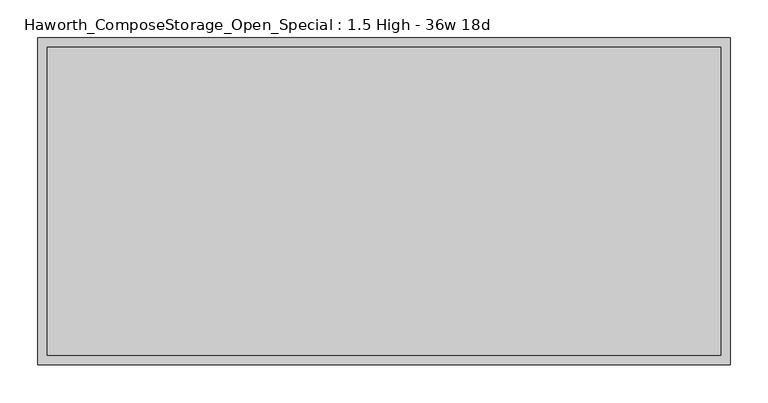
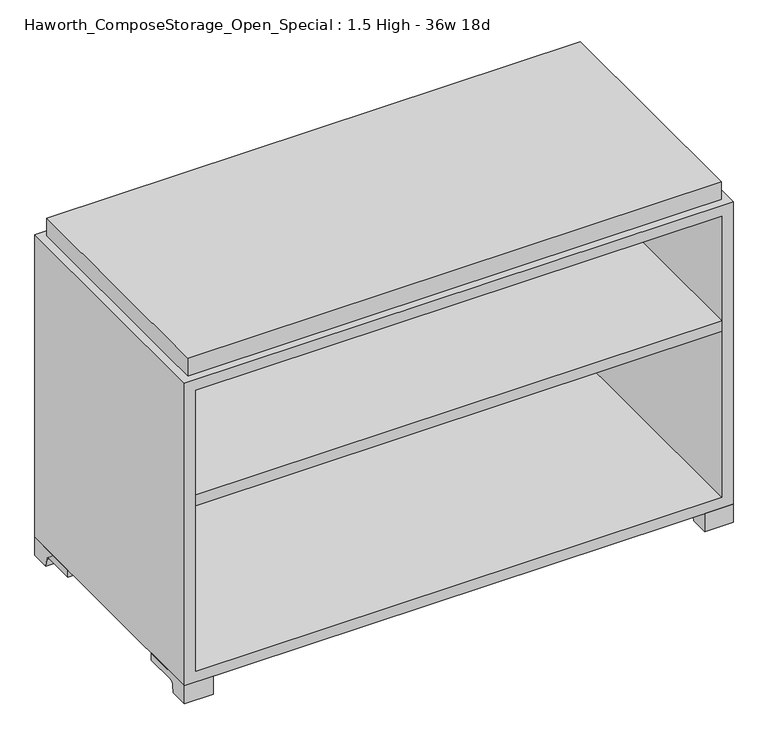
"""IFC4 building model written with IfcOpenShell, lengths in millimetres: furniture geometry, Haworth_ComposeStorage_Open_Special : 1.5 High - 36w 18d."""

from ifc_helpers import new_model, si_unit, point, frame, frame_2d, origin, place, context, project, spatial, polyline, circle_curve, trimmed, segment, composite_curve, outline, extrude, source, transform, mapped, element, save


def haworth_composestorage_open_special_1_5_high_36w_18d_d6f6f0fc(model_context):
    return source(origin(), model_context, "Body", "SweptSolid", [
        extrude(outline(composite_curve([segment(polyline([(-120.65, 0.0), (-152.4, 0.0), (-152.4, 31.75), (-57.15, 31.75), (-57.15, 19.05), (-112.1833333, 19.05)]), True, "CONTINUOUS"), segment(trimmed(circle_curve(frame_2d((-112.1833333, 12.7)), 6.35), [point((-112.1833333, 19.05))], [point((-118.5333333, 12.7))], True, "CARTESIAN"), True, "CONTINUOUS"), segment(polyline([(-118.5333333, 12.7), (-120.65, 0.0)]), True, "CONTINUOUS")], self_intersect=False)), frame((409.5888906, 0.0, 0.0), z_axis=(1.0, 0.0, 0.0), x_axis=(0.0, 1.0, 0.0)), (0.0, 0.0, 1.0), 47.625),
        extrude(outline(composite_curve([segment(polyline([(247.65, 0.0), (245.5333333, 12.7)]), True, "CONTINUOUS"), segment(trimmed(circle_curve(frame_2d((239.1833333, 12.7)), 6.35), [point((245.5333333, 12.7))], [point((239.1833333, 19.05))], True, "CARTESIAN"), True, "CONTINUOUS"), segment(polyline([(239.1833333, 19.05), (184.15, 19.05), (184.15, 31.75), (279.4, 31.75), (279.4, 0.0), (247.65, 0.0)]), True, "CONTINUOUS")], self_intersect=False)), frame((409.5888906, 0.0, 0.0), z_axis=(1.0, 0.0, 0.0), x_axis=(0.0, 1.0, 0.0)), (0.0, 0.0, 1.0), 47.625),
        extrude(outline(composite_curve([segment(polyline([(-120.65, 0.0), (-152.4, 0.0), (-152.4, 31.75), (-57.15, 31.75), (-57.15, 19.05), (-112.1833333, 19.05)]), True, "CONTINUOUS"), segment(trimmed(circle_curve(frame_2d((-112.1833333, 12.7)), 6.35), [point((-112.1833333, 19.05))], [point((-118.5333333, 12.7))], True, "CARTESIAN"), True, "CONTINUOUS"), segment(polyline([(-118.5333333, 12.7), (-120.65, 0.0)]), True, "CONTINUOUS")], self_intersect=False)), frame((-457.1861094, 0.0, 0.0), z_axis=(1.0, 0.0, 0.0), x_axis=(0.0, 1.0, 0.0)), (0.0, 0.0, 1.0), 47.625),
        extrude(outline(composite_curve([segment(polyline([(247.65, 0.0), (245.5333333, 12.7)]), True, "CONTINUOUS"), segment(trimmed(circle_curve(frame_2d((239.1833333, 12.7)), 6.35), [point((245.5333333, 12.7))], [point((239.1833333, 19.05))], True, "CARTESIAN"), True, "CONTINUOUS"), segment(polyline([(239.1833333, 19.05), (184.15, 19.05), (184.15, 31.75), (279.4, 31.75), (279.4, 0.0), (247.65, 0.0)]), True, "CONTINUOUS")], self_intersect=False)), frame((-457.1861094, 0.0, 0.0), z_axis=(1.0, 0.0, 0.0), x_axis=(0.0, 1.0, 0.0)), (0.0, 0.0, 1.0), 47.625),
        extrude(outline(polyline([(438.1569453, 260.35), (438.1569453, -152.4), (-438.1291641, -152.4), (-438.1291641, 260.35), (438.1569453, 260.35)])), frame((0.0, 0.0, 342.9), z_axis=(0.0, 0.0, 1.0), x_axis=(1.0, 0.0, 0.0)), (0.0, 0.0, 1.0), 19.05),
        extrude(outline(polyline([(31.75, -457.1861094), (31.75, 457.2138906), (565.15, 457.2138906), (565.15, -457.1861094), (31.75, -457.1861094)]), holes=[polyline([(50.8, -438.1361094), (546.1, -438.1361094), (546.1, 438.1569453), (50.8, 438.1569453), (50.8, -438.1361094)])]), frame((0.0, -152.4, 0.0), z_axis=(0.0, 1.0, 0.0), x_axis=(0.0, 0.0, 1.0)), (0.0, 0.0, 1.0), 431.8),
        extrude(outline(polyline([(-438.1291641, 260.35), (-438.1291641, 279.4), (438.1569453, 279.4), (438.1569453, 260.35), (-438.1291641, 260.35)])), frame((0.0, 0.0, 50.8), z_axis=(0.0, 0.0, 1.0), x_axis=(1.0, 0.0, 0.0)), (0.0, 0.0, 1.0), 495.3),
        extrude(outline(polyline([(444.5138906, 266.7), (444.5138906, -139.7), (-444.4861094, -139.7), (-444.4861094, 266.7), (444.5138906, 266.7)])), frame((0.0, 0.0, 565.15), z_axis=(0.0, 0.0, 1.0), x_axis=(1.0, 0.0, 0.0)), (0.0, 0.0, 1.0), 31.75),
    ])


if __name__ == "__main__":
    model = new_model("IFC4")
    model_context = context("Model", 3, world=origin())
    ifc_project = project(units=[si_unit("LENGTHUNIT", "METRE", prefix="MILLI")], contexts=[model_context])
    site = spatial("IfcSite", under=ifc_project)
    building = spatial("IfcBuilding", under=site)
    placement = place(None, origin())
    haworth_composestorage_open_special_1_5_high_36w_18d_shape = haworth_composestorage_open_special_1_5_high_36w_18d_d6f6f0fc(model_context)
    element("IfcFurniture", 1, ObjectType="Haworth_ComposeStorage_Open_Special : 1.5 High - 36w 18d", at=placement, inside=building, context=model_context, shape_type="MappedRepresentation", body=[
        mapped(haworth_composestorage_open_special_1_5_high_36w_18d_shape, transform((0.0, 0.0, 0.0), x_axis=(1.0, 0.0, 0.0), y_axis=(0.0, 1.0, 0.0), z_axis=(0.0, 0.0, 1.0))),
    ])
    save(model, "model.ifc")
